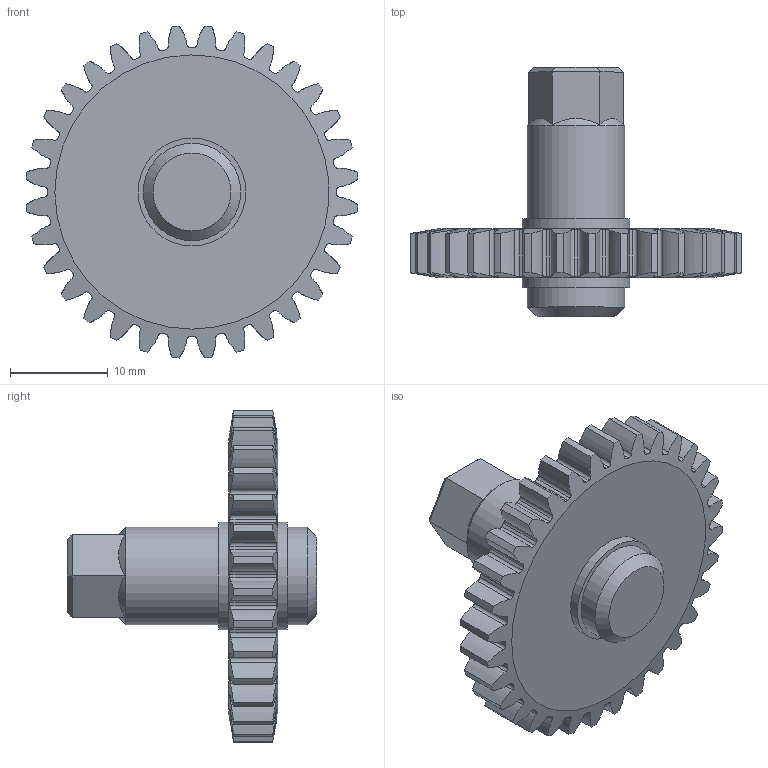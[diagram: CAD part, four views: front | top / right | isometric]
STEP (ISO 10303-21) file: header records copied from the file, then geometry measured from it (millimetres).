
FILE_DESCRIPTION( ( '' ), ' ' );
FILE_NAME( '/vol/tmp/translate-2367118400164915987/5b317fd33f476d1102fc810c.step', '2018-06-25T23:50:43', ( '' ), ( '' ), ' ', ' ', ' ' );
FILE_SCHEMA( ( 'AUTOMOTIVE_DESIGN { 1 0 10303 214 1 1 1 1 }' ) );
Length unit declared in the file: metre
Products named in the file (1): Part 1
Bounding box: 33.9 x 25.5 x 33.9 mm (x, y, z)
Volume: 5247.6 mm3; surface area: 3298.4 mm2
Topology: 1 solids, 1 shells, 221 faces, 636 edges, 422 vertices
Faces by surface type: cylinder 133, extrusion 64, plane 19, cone 5
Full cylindrical faces by diameter (mm): 3 x1, 9.95 x2, 11 x2
Entity records: 11336 total; most frequent: CARTESIAN_POINT 4209, ORIENTED_EDGE 1242, DIRECTION 880, EDGE_CURVE 621, VERTEX_POINT 417, B_SPLINE_CURVE_WITH_KNOTS 327, AXIS2_PLACEMENT_3D 300, VECTOR 280
